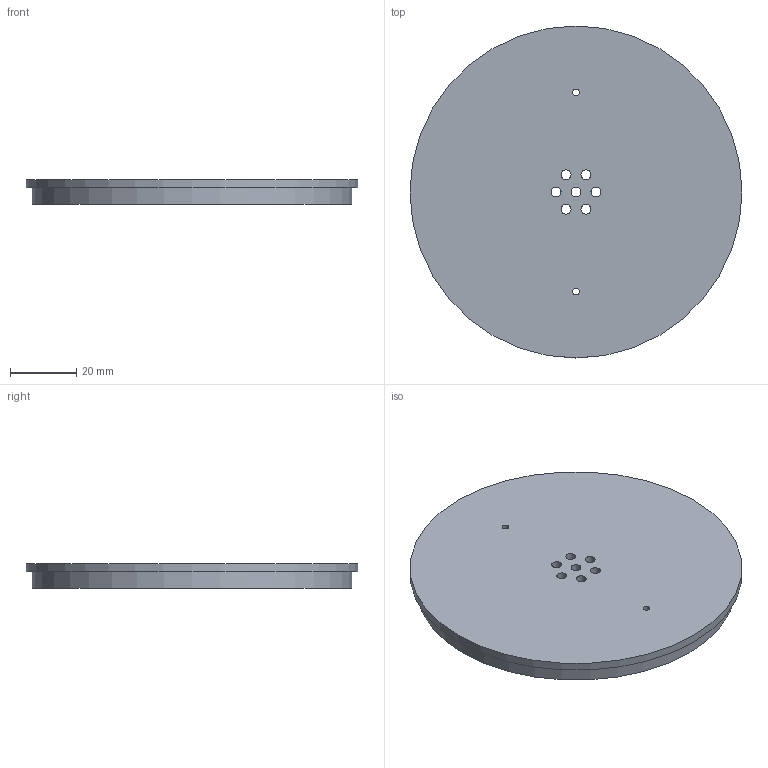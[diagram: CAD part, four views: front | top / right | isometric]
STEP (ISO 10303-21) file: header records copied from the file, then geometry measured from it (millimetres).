
FILE_DESCRIPTION(('FreeCAD Model'),'2;1');
FILE_NAME('Open CASCADE Shape Model','2026-10-22T12:16:51',('FreeCAD'),( 'FreeCAD'),'Open CASCADE STEP processor 8.0','FreeCAD','Unknown');
FILE_SCHEMA(('AUTOMOTIVE_DESIGN { 1 0 10303 214 1 1 1 1 }'));
Length unit declared in the file: millimetre
Products named in the file (1): Open CASCADE STEP translator 8.0 2
Bounding box: 100 x 100 x 7.5 mm (x, y, z)
Volume: 22454.9 mm3; surface area: 19537.6 mm2
Topology: 1 solids, 1 shells, 16 faces, 36 edges, 24 vertices
Faces by surface type: cylinder 12, plane 4
Full cylindrical faces by diameter (mm): 2 x2, 3 x7, 92.2 x1, 96.2 x1, 100 x1
Entity records: 510 total; most frequent: DIRECTION 94, CARTESIAN_POINT 77, ORIENTED_EDGE 72, AXIS2_PLACEMENT_3D 41, FACE_BOUND 36, EDGE_LOOP 36, EDGE_CURVE 36, VERTEX_POINT 24
